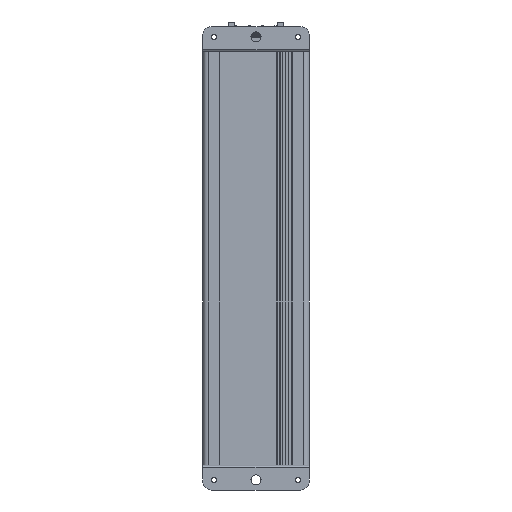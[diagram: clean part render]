
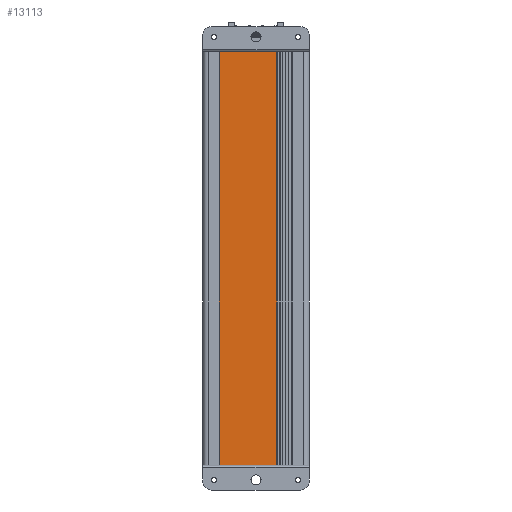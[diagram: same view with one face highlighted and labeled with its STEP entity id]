
A CAD part, front view. The second image highlights one B-rep face of the part: STEP entity #13113.
In plain terms, the highlighted planar face has unit normal (0, -1, 0).
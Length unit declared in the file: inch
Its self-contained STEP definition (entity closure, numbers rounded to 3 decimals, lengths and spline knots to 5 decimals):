
#873=LINE('',#22999,#2019);
#919=LINE('',#23153,#2065);
#1105=LINE('',#23686,#2251);
#1106=LINE('',#23688,#2252);
#2019=VECTOR('',#17090,0.3937);
#2065=VECTOR('',#17208,0.3937);
#2251=VECTOR('',#17728,0.3937);
#2252=VECTOR('',#17731,0.3937);
#3350=FACE_OUTER_BOUND('',#4055,.T.);
#4055=EDGE_LOOP('',(#11320,#11321,#11322,#11323));
#5805=VERTEX_POINT('',#22996);
#5806=VERTEX_POINT('',#22998);
#5877=VERTEX_POINT('',#23150);
#5878=VERTEX_POINT('',#23152);
#7519=EDGE_CURVE('',#5806,#5805,#873,.T.);
#7596=EDGE_CURVE('',#5877,#5878,#919,.T.);
#7869=EDGE_CURVE('',#5805,#5878,#1105,.T.);
#7870=EDGE_CURVE('',#5806,#5877,#1106,.T.);
#11320=ORIENTED_EDGE('',*,*,#7519,.T.);
#11321=ORIENTED_EDGE('',*,*,#7869,.T.);
#11322=ORIENTED_EDGE('',*,*,#7596,.F.);
#11323=ORIENTED_EDGE('',*,*,#7870,.F.);
#12205=PLANE('',#14359);
#13113=ADVANCED_FACE('',(#3350),#12205,.T.);
#14359=AXIS2_PLACEMENT_3D('',#23687,#17729,#17730);
#17090=DIRECTION('',(1.,0.,0.));
#17208=DIRECTION('',(1.,0.,0.));
#17728=DIRECTION('',(0.,0.,1.));
#17729=DIRECTION('center_axis',(0.,-1.,0.));
#17730=DIRECTION('ref_axis',(1.,0.,0.));
#17731=DIRECTION('',(0.,0.,1.));
#22996=CARTESIAN_POINT('',(8.43574,2.65237,0.));
#22998=CARTESIAN_POINT('',(6.40818,2.65237,0.));
#22999=CARTESIAN_POINT('',(6.40818,2.65237,0.));
#23150=CARTESIAN_POINT('',(6.40818,2.65237,14.56693));
#23152=CARTESIAN_POINT('',(8.43574,2.65237,14.56693));
#23153=CARTESIAN_POINT('',(6.40818,2.65237,14.56693));
#23686=CARTESIAN_POINT('',(8.43574,2.65237,0.));
#23687=CARTESIAN_POINT('Origin',(6.40818,2.65237,0.));
#23688=CARTESIAN_POINT('',(6.40818,2.65237,0.));
